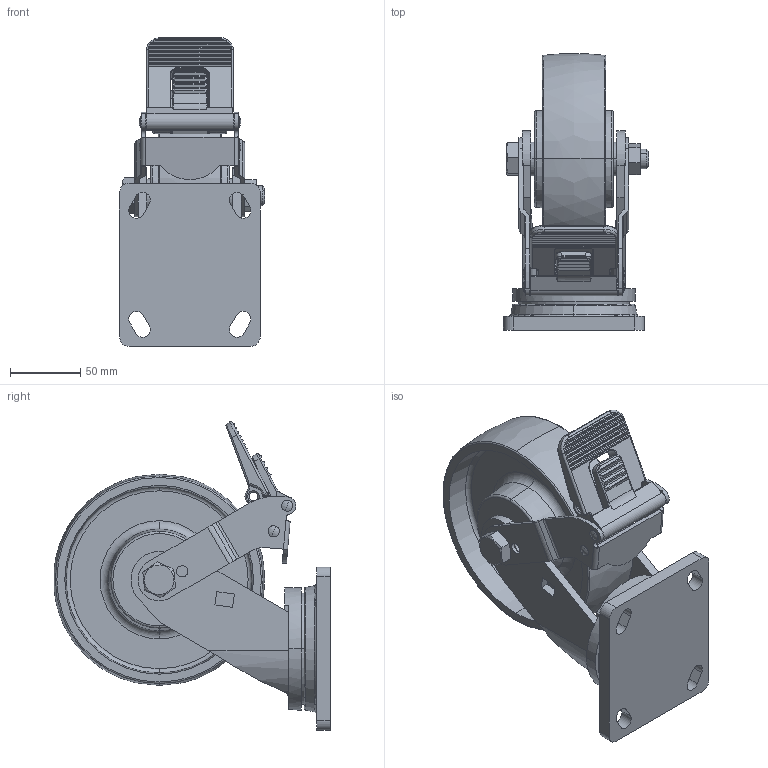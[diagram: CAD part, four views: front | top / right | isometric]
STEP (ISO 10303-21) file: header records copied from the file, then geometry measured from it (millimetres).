
FILE_DESCRIPTION((''),'2;1');
FILE_NAME('78126F-786-96_ASM','2020-07-08T',('lenovo'),(''),'PRO/ENGINEER BY PARAMETRIC TECHNOLOGY CORPORATION, 2010280','PRO/ENGINEER BY PARAMETRIC TECHNOLOGY CORPORATION, 2010280','');
FILE_SCHEMA(('CONFIG_CONTROL_DESIGN'));
Length unit declared in the file: millimetre
Products named in the file (15): PRT0153; PRT0154; PRT0155; PRT0156; PRT0157; PRODUCT_65818; PRODUCT_114051; PRODUCT_56441; PRT0158; PRT0159; PRT0160; 780F-33-; 78126F-786-96__________ASM_ASM; 78126F-786-96__ASM_ASM; 78126F-786-96_ASM
Assembly tree (16 placements, depth 4):
  78126F-786-96_ASM
    78126F-786-96__ASM_ASM
      78126F-786-96__________ASM_ASM
        PRT0153
        PRT0154
        PRT0155
        PRT0156
        PRT0157
        PRODUCT_65818
        PRODUCT_114051  x3
        PRODUCT_56441
        PRT0158
        PRT0159
        PRT0160
        780F-33-
Bounding box: 103 x 196.35 x 219.31 mm (x, y, z)
Volume: 801073.5 mm3; surface area: 203440.4 mm2
Topology: 14 solids, 14 shells, 522 faces, 1301 edges, 814 vertices
Faces by surface type: plane 201, cylinder 192, torus 47, cone 38, bspline 33, sphere 11
Entity records: 18007 total; most frequent: CARTESIAN_POINT 5293, DIRECTION 2709, ORIENTED_EDGE 2556, EDGE_CURVE 1278, AXIS2_PLACEMENT_3D 1044, VERTEX_POINT 800, VECTOR 621, LINE 621
